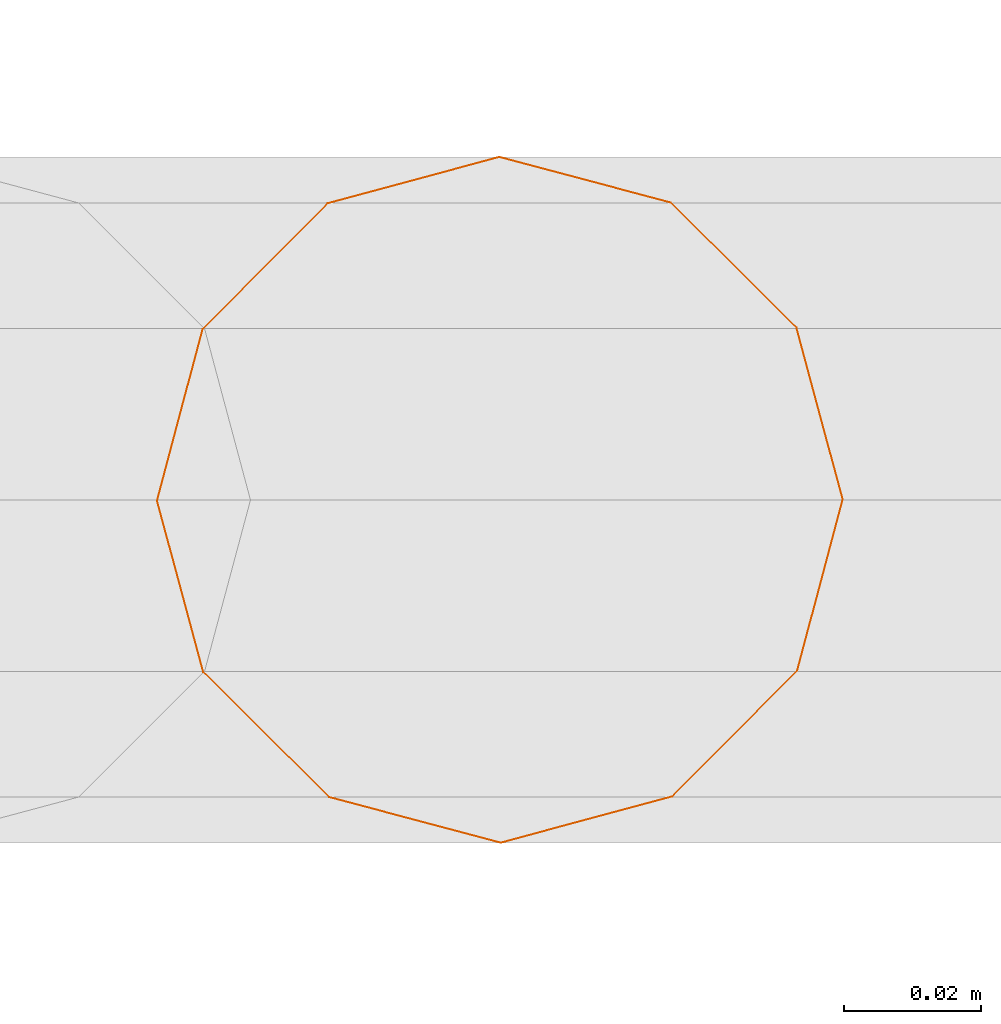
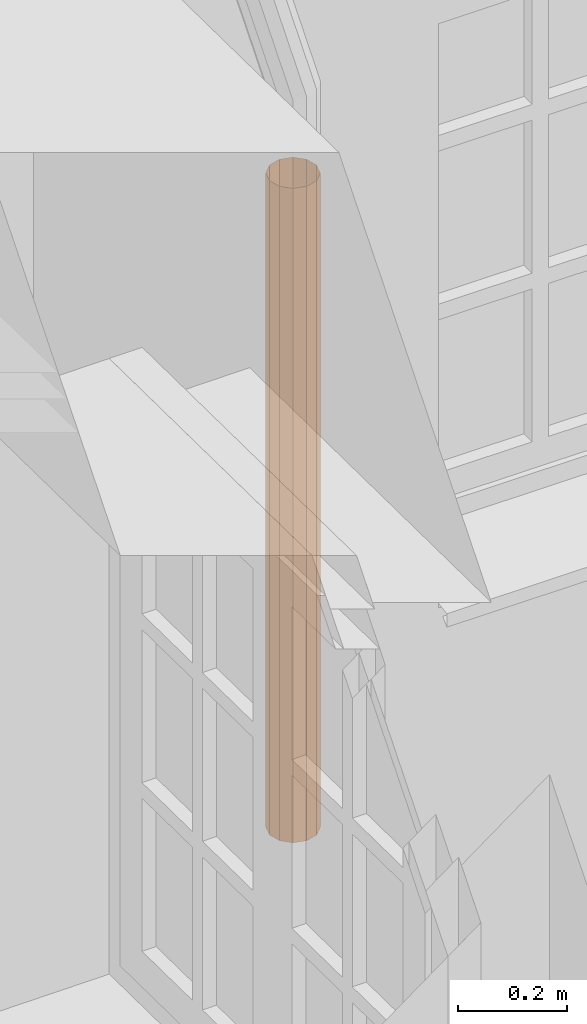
# One storey, part 190 of 196: 1 proxy.
"""IFC2X3 building model written with IfcOpenShell, lengths in metres."""

from ifc_helpers import new_model, entity, si_unit, converted_unit, derived_unit, money_unit, direction, frame, origin_with_axes, place, context, subcontext, project, spatial, open_shell, surface_model, type_object, element, save


model = new_model("IFC2X3")

# Units and contexts
model_context = context("Model", 3, precision=1e-05, world=origin_with_axes(), true_north=direction((0.0, 1.0)))
body_context = subcontext(model_context, "Body", "Model", "MODEL_VIEW")
ifc_project = project(units=[si_unit("LENGTHUNIT", "METRE"), si_unit("AREAUNIT", "SQUARE_METRE"), si_unit("VOLUMEUNIT", "CUBIC_METRE"), converted_unit("PLANEANGLEUNIT", "DEGREE", entity("IfcPlaneAngleMeasure", 0.0174532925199), si_unit("PLANEANGLEUNIT", "RADIAN"), dimensions=[0, 0, 0, 0, 0, 0, 0]), money_unit("EUR"), converted_unit("TIMEUNIT", "Year", entity("IfcTimeMeasure", 31556926.0), si_unit("TIMEUNIT", "SECOND"), dimensions=[0, 0, 1, 0, 0, 0, 0]), si_unit("MASSUNIT", "GRAM", prefix="KILO"), si_unit("THERMODYNAMICTEMPERATUREUNIT", "DEGREE_CELSIUS"), si_unit("LUMINOUSINTENSITYUNIT", "LUMEN"), si_unit("ENERGYUNIT", "JOULE", prefix="MEGA"), derived_unit("THERMALCONDUCTANCEUNIT", [(si_unit("POWERUNIT", "WATT"), 1), (si_unit("LENGTHUNIT", "METRE"), -1), (si_unit("THERMODYNAMICTEMPERATUREUNIT", "KELVIN"), -1)]), derived_unit("SPECIFICHEATCAPACITYUNIT", [(si_unit("ENERGYUNIT", "JOULE"), 1), (si_unit("MASSUNIT", "GRAM", prefix="KILO"), -1), (si_unit("THERMODYNAMICTEMPERATUREUNIT", "KELVIN"), -1)]), derived_unit("MASSDENSITYUNIT", [(si_unit("MASSUNIT", "GRAM", prefix="KILO"), 1), (si_unit("VOLUMEUNIT", "CUBIC_METRE"), -1)])], contexts=[model_context])

# Site, building, storey
site_placement = place(None, origin_with_axes())
site = spatial("IfcSite", under=ifc_project, at=site_placement, Name="Gelände", CompositionType="ELEMENT")
building_placement = place(site_placement, origin_with_axes())
building = spatial("IfcBuilding", under=site, at=building_placement, Name="Gebäude", CompositionType="ELEMENT")
storey_placement = place(building_placement, frame((0.0, 0.0, -3.0), z_axis=(0.0, 0.0, 1.0), x_axis=(1.0, 0.0, 0.0)))
storey = spatial("IfcBuildingStorey", under=building, at=storey_placement, Name="KELLERGESCHOSS", CompositionType="ELEMENT", Elevation=-3.0)

# Proxy
building_element_proxy_type = type_object("IfcBuildingElementProxyType", Name="Fallrohr 25", PredefinedType="NOTDEFINED")
proxy_placement = place(storey_placement, frame((-17.6109019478, 9.20539933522, 1.0195535), z_axis=(0.0, 0.0, 1.0), x_axis=(0.999998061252, 0.00196913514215, 0.0)))
element("IfcBuildingElementProxy", 1, at=proxy_placement, inside=storey, type_object=building_element_proxy_type, Name="Objekt-00223", context=body_context, shape_type="SurfaceModel", body=[
    surface_model("IfcShellBasedSurfaceModel", [(0.05, 0.0, 1.462905), (0.0433012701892, -0.025, 1.462905), (0.0433012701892, -0.025, 0.0), (0.05, 0.0, 0.0), (0.025, -0.0433012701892, 1.462905), (0.025, -0.0433012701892, 0.0), (0.0433012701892, 0.025, 1.462905), (0.0433012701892, 0.025, 0.0), (0.0, -0.05, 1.462905), (0.0, -0.05, 0.0), (0.025, 0.0433012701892, 1.462905), (0.025, 0.0433012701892, 0.0), (-0.025, -0.0433012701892, 1.462905), (-0.025, -0.0433012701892, 0.0), (0.0, 0.05, 1.462905), (0.0, 0.05, 0.0), (-0.0433012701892, -0.025, 1.462905), (-0.0433012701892, -0.025, 0.0), (-0.025, 0.0433012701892, 1.462905), (-0.025, 0.0433012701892, 0.0), (-0.05, 0.0, 1.462905), (-0.05, 0.0, 0.0), (-0.0433012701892, 0.025, 1.462905), (-0.0433012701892, 0.025, 0.0)], [open_shell([[[0, 1, 2, 3]], [[1, 4, 5, 2]], [[6, 0, 3, 7]], [[4, 8, 9, 5]], [[10, 6, 7, 11]], [[8, 12, 13, 9]], [[14, 10, 11, 15]], [[12, 16, 17, 13]], [[18, 14, 15, 19]], [[16, 20, 21, 17]], [[22, 18, 19, 23]], [[20, 22, 23, 21]]])]),
])

save(model, "model.ifc")
